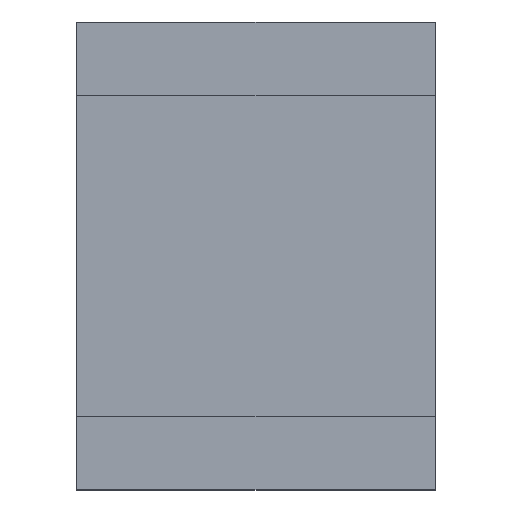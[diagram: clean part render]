
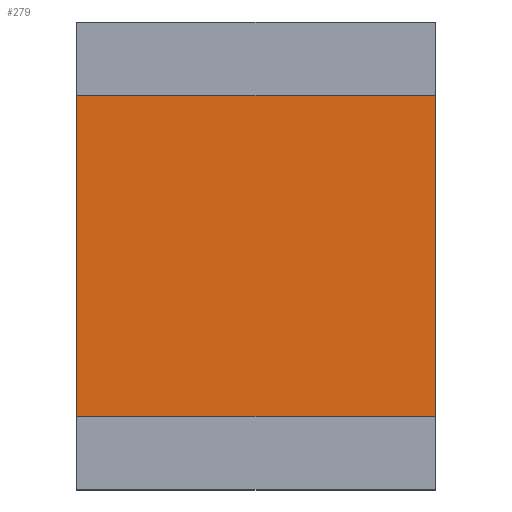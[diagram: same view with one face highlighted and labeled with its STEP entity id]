
A CAD part, top view. The second image highlights one B-rep face of the part: STEP entity #279.
In plain terms, the highlighted planar face has unit normal (0, 0, 1).
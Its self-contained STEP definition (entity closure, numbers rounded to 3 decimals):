
#33=FACE_OUTER_BOUND('',#47,.T.);
#47=EDGE_LOOP('',(#217,#218,#219,#220));
#56=LINE('',#382,#92);
#65=LINE('',#402,#101);
#80=LINE('',#432,#116);
#81=LINE('',#433,#117);
#92=VECTOR('',#314,10.);
#101=VECTOR('',#329,10.);
#116=VECTOR('',#354,10.);
#117=VECTOR('',#355,10.);
#126=VERTEX_POINT('',#376);
#128=VERTEX_POINT('',#380);
#135=VERTEX_POINT('',#399);
#136=VERTEX_POINT('',#401);
#152=EDGE_CURVE('',#126,#128,#56,.T.);
#161=EDGE_CURVE('',#136,#135,#65,.T.);
#176=EDGE_CURVE('',#128,#136,#80,.T.);
#177=EDGE_CURVE('',#135,#126,#81,.T.);
#217=ORIENTED_EDGE('',*,*,#152,.T.);
#218=ORIENTED_EDGE('',*,*,#176,.T.);
#219=ORIENTED_EDGE('',*,*,#161,.T.);
#220=ORIENTED_EDGE('',*,*,#177,.T.);
#265=PLANE('',#301);
#279=ADVANCED_FACE('',(#33),#265,.T.);
#301=AXIS2_PLACEMENT_3D('',#431,#352,#353);
#314=DIRECTION('',(1.,0.,0.));
#329=DIRECTION('',(-1.,0.,0.));
#352=DIRECTION('center_axis',(0.,0.,1.));
#353=DIRECTION('ref_axis',(1.,0.,0.));
#354=DIRECTION('',(0.,1.,0.));
#355=DIRECTION('',(0.,-1.,0.));
#376=CARTESIAN_POINT('',(0.,0.5,0.6));
#380=CARTESIAN_POINT('',(2.45,0.5,0.6));
#382=CARTESIAN_POINT('',(1.838,0.5,0.6));
#399=CARTESIAN_POINT('',(0.,2.7,0.6));
#401=CARTESIAN_POINT('',(2.45,2.7,0.6));
#402=CARTESIAN_POINT('',(1.838,2.7,0.6));
#431=CARTESIAN_POINT('Origin',(1.225,1.6,0.6));
#432=CARTESIAN_POINT('',(2.45,0.,0.6));
#433=CARTESIAN_POINT('',(0.,3.2,0.6));
